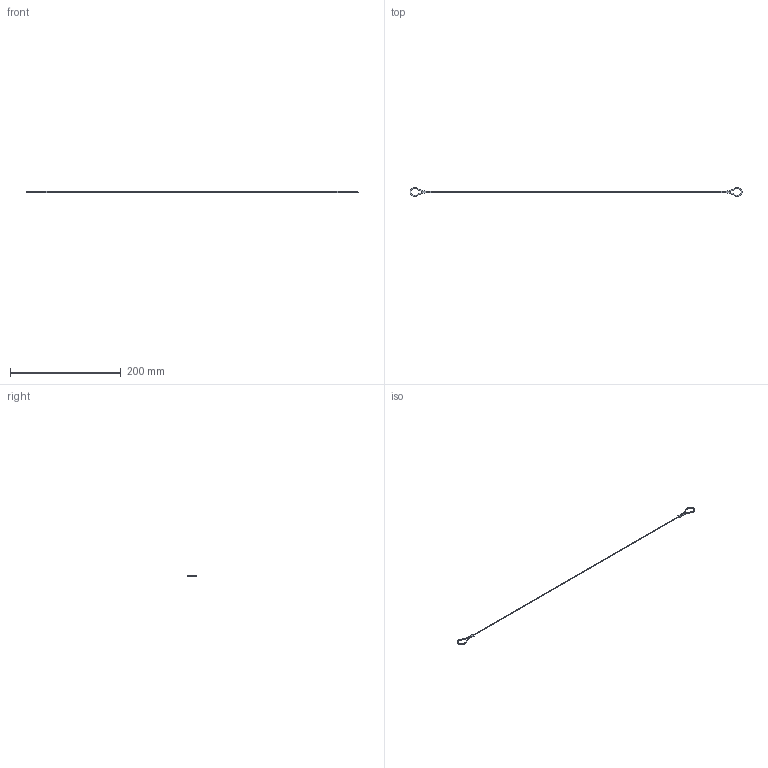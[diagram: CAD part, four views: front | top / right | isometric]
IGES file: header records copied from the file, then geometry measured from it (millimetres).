
Start section:  PTC IGES file: EB-935_18.igs
Global section: file name: EB-935_18.igs; native system: Creo Parametric by Parametric Technology Corporation; preprocessor: 2012360; author: xeon_1; organization: Unknown; date: 20130808.094345; units: millimetre
Bounding box: 599.94 x 15.97 x 2.5 mm (x, y, z)
Volume: 1290.9 mm3; surface area: 3317.8 mm2
Topology: 1 solids, 1 shells, 28 faces, 62 edges, 34 vertices
Faces by surface type: revolution 14, bspline 14
